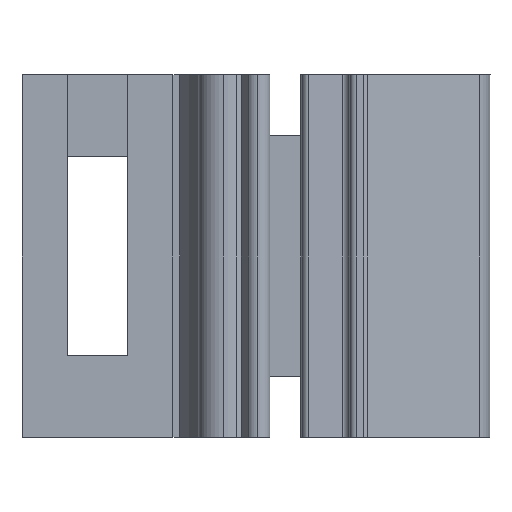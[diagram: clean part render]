
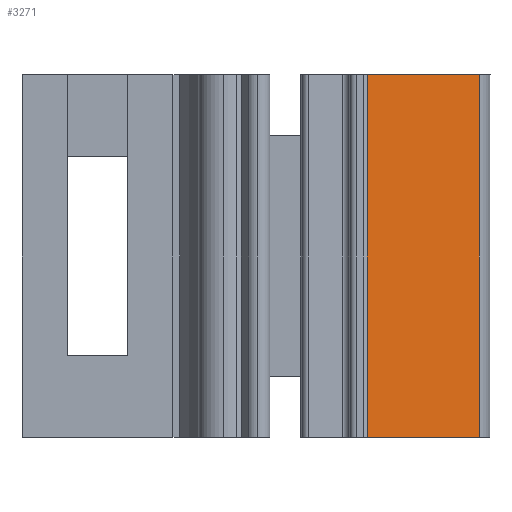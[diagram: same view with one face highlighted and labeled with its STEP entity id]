
A CAD part, left-side view. The second image highlights one B-rep face of the part: STEP entity #3271.
In plain terms, the highlighted planar face has unit normal (-0.766, -0.643, 0).
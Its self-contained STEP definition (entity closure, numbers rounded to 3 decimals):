
#1708 = CARTESIAN_POINT ( 'NONE',  ( -2.265, -9.843, -12. ) ) ;
#1719 = DIRECTION ( 'NONE',  ( 0., 0., -1. ) ) ;
#1720 = VECTOR ( 'NONE', #1719, 1000. ) ;
#1721 = CARTESIAN_POINT ( 'NONE',  ( -5.379, -6.131, 0. ) ) ;
#1722 = LINE ( 'NONE', #1721, #1720 ) ;
#1724 = CARTESIAN_POINT ( 'NONE',  ( -5.379, -6.131, -12. ) ) ;
#1755 = DIRECTION ( 'NONE',  ( 0., 0., 1. ) ) ;
#1756 = VECTOR ( 'NONE', #1755, 1000. ) ;
#1757 = CARTESIAN_POINT ( 'NONE',  ( -2.265, -9.843, 0. ) ) ;
#1758 = LINE ( 'NONE', #1757, #1756 ) ;
#1759 = CARTESIAN_POINT ( 'NONE',  ( -5.379, -6.131, 0. ) ) ;
#1771 = CARTESIAN_POINT ( 'NONE',  ( -2.265, -9.843, 0. ) ) ;
#1807 = DIRECTION ( 'NONE',  ( 0.643, -0.766, 0. ) ) ;
#1808 = VECTOR ( 'NONE', #1807, 1000. ) ;
#1809 = CARTESIAN_POINT ( 'NONE',  ( -5.379, -6.131, 0. ) ) ;
#1810 = LINE ( 'NONE', #1809, #1808 ) ;
#1842 = DIRECTION ( 'NONE',  ( -0.643, 0.766, 0. ) ) ;
#1843 = VECTOR ( 'NONE', #1842, 1000. ) ;
#1844 = CARTESIAN_POINT ( 'NONE',  ( -2.265, -9.843, -12. ) ) ;
#1845 = LINE ( 'NONE', #1844, #1843 ) ;
#1892 = DIRECTION ( 'NONE',  ( 0.643, -0.766, 0. ) ) ;
#1893 = DIRECTION ( 'NONE',  ( -0.766, -0.643, 0. ) ) ;
#1894 = CARTESIAN_POINT ( 'NONE',  ( -2.265, -9.843, 0. ) ) ;
#1895 = AXIS2_PLACEMENT_3D ( 'NONE', #1894, #1893, #1892 ) ;
#1896 = PLANE ( 'NONE',  #1895 ) ;
#1897 = FACE_OUTER_BOUND ( 'NONE', #3232, .T. ) ;
#3172 = VERTEX_POINT ( 'NONE', #1708 ) ;
#3193 = VERTEX_POINT ( 'NONE', #1724 ) ;
#3198 = EDGE_CURVE ( 'NONE', #3214, #3193, #1722, .T. ) ;
#3203 = VERTEX_POINT ( 'NONE', #1771 ) ;
#3214 = VERTEX_POINT ( 'NONE', #1759 ) ;
#3216 = EDGE_CURVE ( 'NONE', #3172, #3203, #1758, .T. ) ;
#3232 = EDGE_LOOP ( 'NONE', ( #3266, #3272, #3263, #3258 ) ) ;
#3250 = EDGE_CURVE ( 'NONE', #3214, #3203, #1810, .T. ) ;
#3258 = ORIENTED_EDGE ( 'NONE', *, *, #3198, .T. ) ;
#3263 = ORIENTED_EDGE ( 'NONE', *, *, #3250, .F. ) ;
#3265 = EDGE_CURVE ( 'NONE', #3172, #3193, #1845, .T. ) ;
#3266 = ORIENTED_EDGE ( 'NONE', *, *, #3265, .F. ) ;
#3271 = ADVANCED_FACE ( 'NONE', ( #1897 ), #1896, .T. ) ;
#3272 = ORIENTED_EDGE ( 'NONE', *, *, #3216, .T. ) ;
